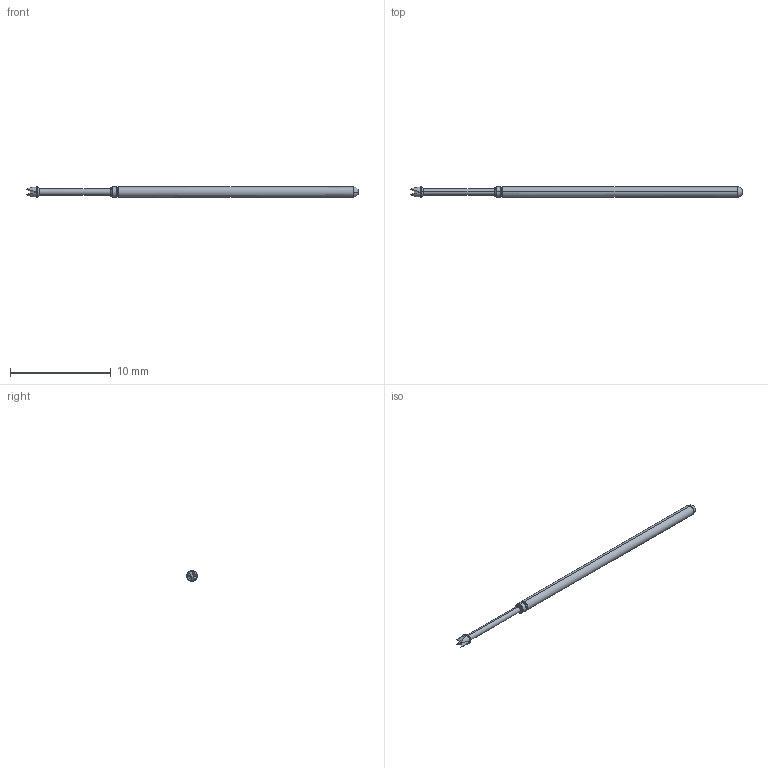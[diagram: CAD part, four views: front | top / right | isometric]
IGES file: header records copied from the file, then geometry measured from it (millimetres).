
Start section: SolidWorks IGES file using analytic representation for surfaces
Global section: file name: \\CODA-VM-SBS\RedirectedFolders\georged\My Documents\CODA FILES NEW\ATE TEST PROBES\LPA2 & ST-LPA2 SERIES\LF-LPA2Q-040.IGS; native system: SolidWorks 2022; preprocessor: SolidWorks 2022; author: GeorgeD; date: 230605.103905; units: inch
Bounding box: 33.02 x 1.02 x 1.02 mm (x, y, z)
Surface area: 98.1 mm2 (no closed solid volume)
Topology: 0 solids, 0 shells, 33 faces, 190 edges, 190 vertices
Faces by surface type: bspline 33
